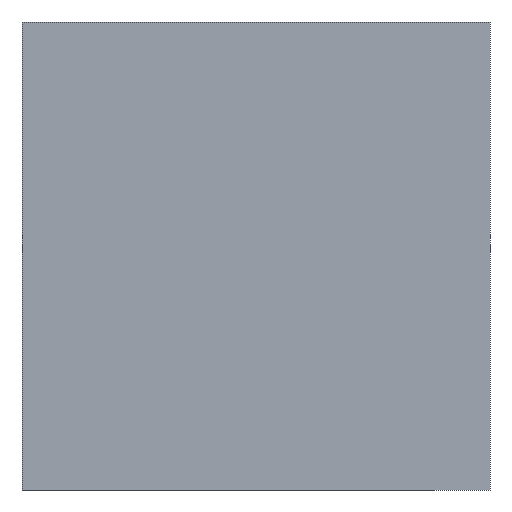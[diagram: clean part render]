
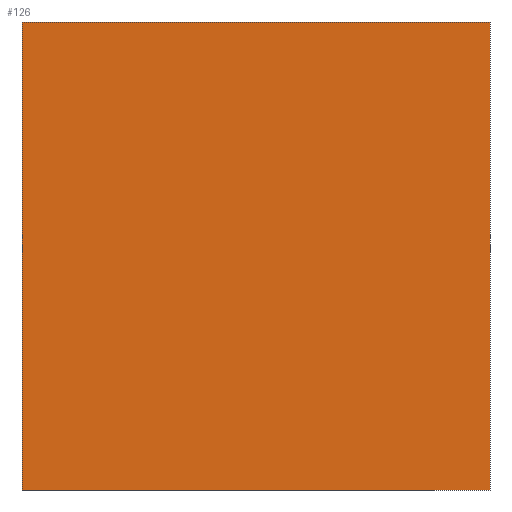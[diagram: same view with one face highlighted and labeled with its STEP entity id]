
A CAD part, left-side view. The second image highlights one B-rep face of the part: STEP entity #126.
In plain terms, the highlighted planar face has unit normal (-1, 0, 0).
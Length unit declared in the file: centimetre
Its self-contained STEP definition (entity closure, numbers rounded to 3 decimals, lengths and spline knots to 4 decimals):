
#4 = LINE ( 'NONE', #72, #421 ) ;
#5 = CARTESIAN_POINT ( 'NONE',  ( 0., 1000., 1000. ) ) ;
#8 = VECTOR ( 'NONE', #484, 100. ) ;
#11 = DIRECTION ( 'NONE',  ( 0., 0., -1. ) ) ;
#18 = DIRECTION ( 'NONE',  ( 1., 0., 0. ) ) ;
#27 = ORIENTED_EDGE ( 'NONE', *, *, #439, .T. ) ;
#49 = EDGE_CURVE ( 'NONE', #223, #384, #371, .T. ) ;
#72 = CARTESIAN_POINT ( 'NONE',  ( 0., 1000., 1000. ) ) ;
#88 = CARTESIAN_POINT ( 'NONE',  ( 0., 0., 1000. ) ) ;
#91 = FACE_OUTER_BOUND ( 'NONE', #148, .T. ) ;
#114 = CARTESIAN_POINT ( 'NONE',  ( 0., 1000., 0. ) ) ;
#121 = EDGE_CURVE ( 'NONE', #442, #384, #478, .T. ) ;
#126 = ADVANCED_FACE ( 'NONE', ( #91 ), #188, .F. ) ;
#136 = VECTOR ( 'NONE', #353, 100. ) ;
#148 = EDGE_LOOP ( 'NONE', ( #487, #435, #495, #27 ) ) ;
#173 = CARTESIAN_POINT ( 'NONE',  ( 0., 1000., 1000. ) ) ;
#188 = PLANE ( 'NONE',  #318 ) ;
#200 = CARTESIAN_POINT ( 'NONE',  ( 0., 1000., 0. ) ) ;
#223 = VERTEX_POINT ( 'NONE', #292 ) ;
#251 = EDGE_CURVE ( 'NONE', #428, #223, #341, .T. ) ;
#272 = DIRECTION ( 'NONE',  ( 0., 0., -1. ) ) ;
#292 = CARTESIAN_POINT ( 'NONE',  ( 0., 0., 1000. ) ) ;
#318 = AXIS2_PLACEMENT_3D ( 'NONE', #5, #18, #272 ) ;
#341 = LINE ( 'NONE', #173, #8 ) ;
#353 = DIRECTION ( 'NONE',  ( 0., -1., 0. ) ) ;
#371 = LINE ( 'NONE', #88, #446 ) ;
#384 = VERTEX_POINT ( 'NONE', #414 ) ;
#414 = CARTESIAN_POINT ( 'NONE',  ( 0., 0., 0. ) ) ;
#421 = VECTOR ( 'NONE', #11, 100. ) ;
#428 = VERTEX_POINT ( 'NONE', #470 ) ;
#435 = ORIENTED_EDGE ( 'NONE', *, *, #49, .F. ) ;
#439 = EDGE_CURVE ( 'NONE', #428, #442, #4, .T. ) ;
#442 = VERTEX_POINT ( 'NONE', #114 ) ;
#446 = VECTOR ( 'NONE', #476, 100. ) ;
#470 = CARTESIAN_POINT ( 'NONE',  ( 0., 1000., 1000. ) ) ;
#476 = DIRECTION ( 'NONE',  ( 0., 0., -1. ) ) ;
#478 = LINE ( 'NONE', #200, #136 ) ;
#484 = DIRECTION ( 'NONE',  ( 0., -1., 0. ) ) ;
#487 = ORIENTED_EDGE ( 'NONE', *, *, #121, .T. ) ;
#495 = ORIENTED_EDGE ( 'NONE', *, *, #251, .F. ) ;
